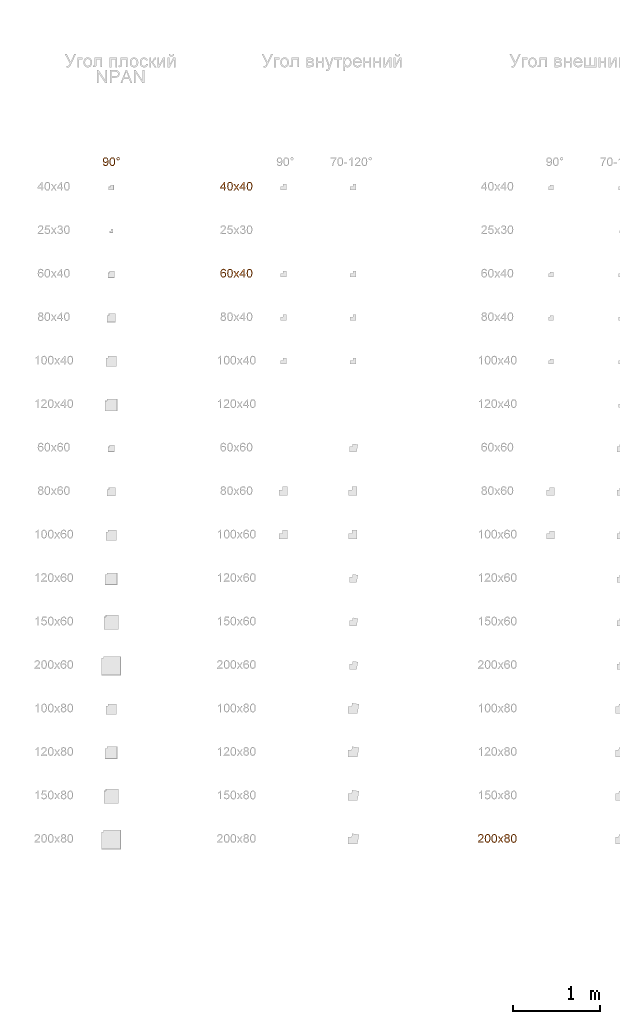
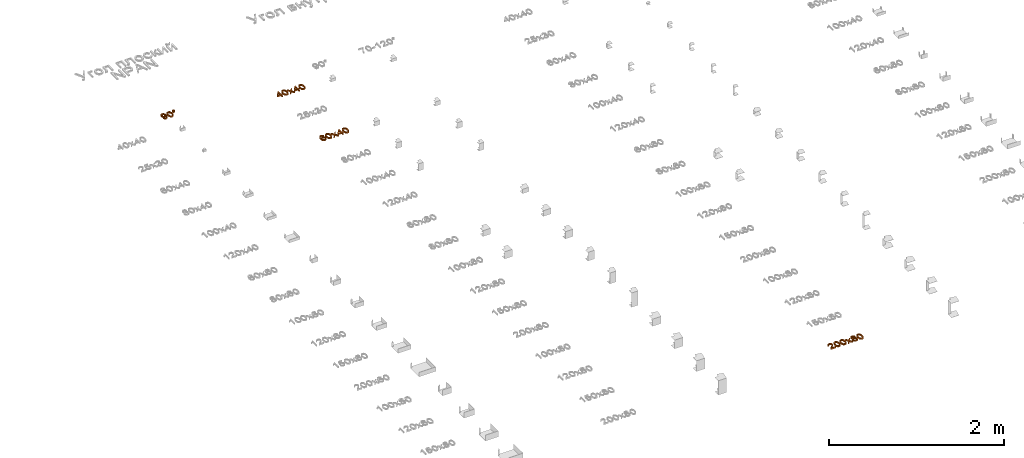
# One storey, part 50 of 71: 4 proxies.
"""IFC2X3 building model written with IfcOpenShell, lengths in millimetres."""

from ifc_helpers import new_model, entity, si_unit, converted_unit, derived_unit, direction, frame, origin, place, context, subcontext, project, spatial, polyline, outline, extrude, element, save


model = new_model("IFC2X3")

# Units and contexts
model_context = context("Model", 3, precision=0.01, world=origin(), true_north=direction((6.12303176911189e-17, 1.0)))
body_context = subcontext(model_context, "Body", "Model", "MODEL_VIEW")
ifc_project = project(units=[si_unit("LENGTHUNIT", "METRE", prefix="MILLI"), si_unit("AREAUNIT", "SQUARE_METRE"), si_unit("VOLUMEUNIT", "CUBIC_METRE"), converted_unit("PLANEANGLEUNIT", "DEGREE", entity("IfcRatioMeasure", 0.0174532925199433), si_unit("PLANEANGLEUNIT", "RADIAN"), dimensions=[0, 0, 0, 0, 0, 0, 0]), si_unit("MASSUNIT", "GRAM", prefix="KILO"), derived_unit("MASSDENSITYUNIT", [(si_unit("MASSUNIT", "GRAM", prefix="KILO"), 1), (si_unit("LENGTHUNIT", "METRE"), -3)]), si_unit("TIMEUNIT", "SECOND"), si_unit("FREQUENCYUNIT", "HERTZ"), si_unit("THERMODYNAMICTEMPERATUREUNIT", "DEGREE_CELSIUS"), derived_unit("THERMALTRANSMITTANCEUNIT", [(si_unit("MASSUNIT", "GRAM", prefix="KILO"), 1), (si_unit("THERMODYNAMICTEMPERATUREUNIT", "KELVIN"), -1), (si_unit("TIMEUNIT", "SECOND"), -3)]), derived_unit("VOLUMETRICFLOWRATEUNIT", [(si_unit("LENGTHUNIT", "METRE"), 3), (si_unit("TIMEUNIT", "SECOND"), -1)]), si_unit("ELECTRICCURRENTUNIT", "AMPERE"), si_unit("ELECTRICVOLTAGEUNIT", "VOLT"), si_unit("POWERUNIT", "WATT"), si_unit("FORCEUNIT", "NEWTON", prefix="KILO"), si_unit("ILLUMINANCEUNIT", "LUX"), si_unit("LUMINOUSFLUXUNIT", "LUMEN"), si_unit("LUMINOUSINTENSITYUNIT", "CANDELA"), derived_unit("USERDEFINED", [(si_unit("MASSUNIT", "GRAM", prefix="KILO"), -1), (si_unit("LENGTHUNIT", "METRE"), -2), (si_unit("TIMEUNIT", "SECOND"), 3), (si_unit("LUMINOUSFLUXUNIT", "LUMEN"), 1)]), derived_unit("LINEARVELOCITYUNIT", [(si_unit("LENGTHUNIT", "METRE"), 1), (si_unit("TIMEUNIT", "SECOND"), -1)]), si_unit("PRESSUREUNIT", "PASCAL"), derived_unit("USERDEFINED", [(si_unit("LENGTHUNIT", "METRE"), -2), (si_unit("MASSUNIT", "GRAM", prefix="KILO"), 1), (si_unit("TIMEUNIT", "SECOND"), -2)])], contexts=[model_context])

# Site, building, storey
site_placement = place(None, origin())
site = spatial("IfcSite", under=ifc_project, at=site_placement, Name="Default", CompositionType="ELEMENT")
building_placement = place(site_placement, origin())
building = spatial("IfcBuilding", under=site, at=building_placement, Name="Наименование здания", CompositionType="ELEMENT")
storey_placement = place(building_placement, origin())
storey = spatial("IfcBuildingStorey", under=building, at=storey_placement, Name="Этаж 01", CompositionType="ELEMENT", Elevation=0.0)

# Proxies
proxy_1_placement = place(storey_placement, origin())
element("IfcBuildingElementProxy", 1, at=proxy_1_placement, inside=storey, Name="Текст модели:100 мм Arial", ObjectType="Текст модели:100 мм Arial", context=body_context, shape_type="SweptSolid", body=[
    extrude(outline(polyline([(-1.14154897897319, -36.3868737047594), (11.4154897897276, -36.3868737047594), (11.4154897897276, -12.8424260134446), (23.9725285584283, -12.8424260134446), (23.9725285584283, -0.285387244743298), (11.4154897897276, -0.285387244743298), (11.4154897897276, 62.4998065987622), (1.99771071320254, 62.4998065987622), (-46.6608145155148, -0.285387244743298), (-46.6608145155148, -12.8424260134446), (-1.14154897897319, -12.8424260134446), (-1.14154897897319, -36.3868737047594)]), holes=[polyline([(-1.14154897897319, -0.285387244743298), (-31.20977071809, -0.285387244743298), (-1.14154897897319, 38.5139005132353), (-1.14154897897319, -0.285387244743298)])]), frame((15100.8514616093, 3073.05161790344, 0.0)), (0.0, 0.0, 1.0), 20.0),
    extrude(outline(polyline([(-7.02884310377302, -33.3490673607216), (17.5323805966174, -33.3490673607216), (35.198417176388, -27.6137612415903), (43.3439841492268, -18.4876517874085), (47.051694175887, -5.75150665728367), (46.7162020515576, 4.48638208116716), (43.4465778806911, 13.0955287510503), (27.9444305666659, 25.6659118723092), (-0.314338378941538, 32.2325535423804), (-24.0296505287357, 32.3678288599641), (-39.4143020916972, 28.0260881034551), (-49.7293680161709, 18.9002174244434), (-54.4436715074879, 4.63998875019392), (-50.8676582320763, -14.1301059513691), (-35.4058547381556, -26.7333390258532), (-7.02884310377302, -33.3490673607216)]), holes=[polyline([(-5.7742877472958, -20.8548320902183), (-25.0157644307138, -17.3562860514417), (-36.7257089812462, -11.5717922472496), (-41.0962588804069, -4.77599682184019), (-41.9669219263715, 3.21464792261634), (-39.2244253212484, 11.2791292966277), (-32.8654063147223, 17.2229259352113), (-20.9698370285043, 20.2947501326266), (-1.61768958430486, 19.7433141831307), (17.8514140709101, 16.2707701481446), (28.7803640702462, 10.7141596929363), (33.5546988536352, 3.61815959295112), (34.55995686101, -4.47255337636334), (31.9421230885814, -12.1923199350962), (25.8471825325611, -18.175480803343), (14.0250679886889, -21.4027476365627), (-5.7742877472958, -20.8548320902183)])]), frame((15169.7029366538, 3082.48792113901, 0.0), z_axis=(0.0, 0.0, 1.0), x_axis=(0.1018515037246, -0.994799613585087, 0.0)), (0.0, 0.0, 1.0), 20.0),
    extrude(outline(polyline([(-34.5302215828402, -38.4265006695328), (-19.4225343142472, -38.4265006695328), (-0.341721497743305, -12.0616243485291), (2.478707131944, -16.1328517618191), (17.8561745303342, -38.4265006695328), (32.9638617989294, -38.4265006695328), (7.40832586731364, -1.34399555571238), (33.9448804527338, 35.3461020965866), (18.8371931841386, 35.3461020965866), (4.95577923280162, 16.1671874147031), (0.0261604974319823, 9.34910777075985), (-5.66374769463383, 17.6877663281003), (-17.8529044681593, 35.3461020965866), (-32.9605917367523, 35.3461020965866), (-7.69936140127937, -1.34399555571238), (-34.5302215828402, -38.4265006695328)])), frame((15242.5445935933, 3075.09124486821, 0.0)), (0.0, 0.0, 1.0), 20.0),
    extrude(outline(polyline([(-1.14154897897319, -36.3868737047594), (11.4154897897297, -36.3868737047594), (11.4154897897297, -12.8424260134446), (23.9725285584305, -12.8424260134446), (23.9725285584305, -0.285387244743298), (11.4154897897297, -0.285387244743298), (11.4154897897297, 62.4998065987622), (1.99771071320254, 62.4998065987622), (-46.6608145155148, -0.285387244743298), (-46.6608145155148, -12.8424260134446), (-1.14154897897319, -12.8424260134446), (-1.14154897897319, -36.3868737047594)]), holes=[polyline([(-1.14154897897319, -0.285387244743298), (-31.2097707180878, -0.285387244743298), (-1.14154897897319, 38.5139005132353), (-1.14154897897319, -0.285387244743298)])]), frame((15325.3085295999, 3073.05161790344, 0.0)), (0.0, 0.0, 1.0), 20.0),
    extrude(outline(polyline([(-7.02884310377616, -33.3490673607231), (17.5323805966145, -33.3490673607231), (35.1984171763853, -27.6137612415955), (43.343984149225, -18.4876517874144), (47.0516941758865, -5.75150665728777), (46.716202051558, 4.48638208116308), (43.4465778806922, 13.0955287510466), (27.9444305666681, 25.6659118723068), (-0.314338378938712, 32.2325535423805), (-24.0296505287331, 32.367828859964), (-39.4143020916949, 28.0260881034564), (-49.7293680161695, 18.9002174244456), (-54.4436715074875, 4.63998875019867), (-50.8676582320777, -14.1301059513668), (-35.405854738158, -26.7333390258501), (-7.02884310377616, -33.3490673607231)]), holes=[polyline([(-5.77428774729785, -20.85483209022), (-25.0157644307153, -17.3562860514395), (-36.7257089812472, -11.5717922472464), (-41.0962588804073, -4.77599682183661), (-41.9669219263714, 3.21464792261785), (-39.2244253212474, 11.2791292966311), (-32.8654063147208, 17.2229259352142), (-20.9698370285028, 20.2947501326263), (-1.61768958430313, 19.7433141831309), (17.8514140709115, 16.2707701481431), (28.7803640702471, 10.7141596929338), (33.5546988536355, 3.61815959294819), (34.5599568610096, -4.47255337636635), (31.9421230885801, -12.1923199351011), (25.8471825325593, -18.1754808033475), (14.0250679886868, -21.4027476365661), (-5.77428774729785, -20.85483209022)])]), frame((15394.1600046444, 3082.48792113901, 0.0), z_axis=(0.0, 0.0, 1.0), x_axis=(0.101851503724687, -0.994799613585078, 0.0)), (0.0, 0.0, 1.0), 20.0),
])
proxy_2_placement = place(storey_placement, origin())
element("IfcBuildingElementProxy", 2, at=proxy_2_placement, inside=storey, Name="Текст модели:100 мм Arial", ObjectType="Текст модели:100 мм Arial", context=body_context, shape_type="SweptSolid", body=[
    extrude(outline(polyline([(6.79275401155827, -32.5027761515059), (18.3659045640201, -32.5027761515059), (28.1525204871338, -28.8011371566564), (35.6312934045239, -21.7178704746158), (40.2809149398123, -11.5729874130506), (41.4130789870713, 3.2366707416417), (36.1391243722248, 16.3729018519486), (21.8599739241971, 28.8803269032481), (-1.50836821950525, 38.2054593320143), (-23.6059131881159, 41.7609274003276), (-39.9814227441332, 38.5965283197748), (-51.1650797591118, 29.9216784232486), (-57.6870671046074, 16.945794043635), (-57.9805556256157, -0.0494879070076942), (-49.2081886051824, -14.3141019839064), (-33.6167855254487, -22.9350568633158), (-20.6265742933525, -24.2502330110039), (-8.97800352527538, -20.6254922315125), (0.0919027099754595, -13.0350962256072), (5.34612034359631, -2.45330669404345), (5.85483161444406, 11.6447254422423), (-0.843339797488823, 24.9910631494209), (19.7707676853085, 15.5765036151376), (28.4840991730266, 4.26766164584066), (28.389351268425, -7.46374532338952), (19.9956250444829, -18.1936336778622), (8.63303585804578, -19.982539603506), (6.79275401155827, -32.5027761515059)]), holes=[polyline([(-18.7586717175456, 29.9549594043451), (-11.6328110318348, 26.3613362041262), (-6.94154076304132, 20.2038317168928), (-5.85783236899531, 4.13761066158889), (-9.48331864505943, -3.952864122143), (-15.1077394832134, -9.26901644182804), (-22.3091633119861, -11.5969098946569), (-30.6656585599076, -10.7226080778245), (-38.6094491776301, -7.06141592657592), (-43.8637090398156, -1.22509865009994), (-46.1835287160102, 6.17768396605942), (-45.3239987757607, 14.5382721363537), (-39.6901171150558, 24.7221971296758), (-30.0168134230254, 30.0585493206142), (-18.7586717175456, 29.9549594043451)])]), frame((15093.7454554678, 2095.21248246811, 0.0), z_axis=(0.0, 0.0, 1.0), x_axis=(-0.267015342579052, 0.963692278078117, 0.0)), (0.0, 0.0, 1.0), 20.0),
    extrude(outline(polyline([(-7.02884310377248, -33.3490673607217), (17.532380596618, -33.3490673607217), (35.1984171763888, -27.6137612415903), (43.3439841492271, -18.4876517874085), (47.0516941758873, -5.75150665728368), (46.7162020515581, 4.48638208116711), (43.4465778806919, 13.0955287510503), (27.9444305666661, 25.6659118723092), (-0.314338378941, 32.2325535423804), (-24.0296505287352, 32.367828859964), (-39.4143020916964, 28.026088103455), (-49.7293680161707, 18.9002174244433), (-54.4436715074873, 4.63998875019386), (-50.867658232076, -14.1301059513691), (-35.4058547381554, -26.7333390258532), (-7.02884310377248, -33.3490673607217)]), holes=[polyline([(-5.77428774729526, -20.8548320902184), (-25.0157644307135, -17.3562860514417), (-36.7257089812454, -11.5717922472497), (-41.0962588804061, -4.77599682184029), (-41.966921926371, 3.21464792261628), (-39.2244253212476, 11.2791292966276), (-32.865406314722, 17.2229259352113), (-20.9698370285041, 20.2947501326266), (-1.61768958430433, 19.7433141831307), (17.8514140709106, 16.2707701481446), (28.7803640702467, 10.7141596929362), (33.554698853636, 3.61815959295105), (34.5599568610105, -4.47255337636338), (31.9421230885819, -12.1923199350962), (25.8471825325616, -18.1754808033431), (14.0250679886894, -21.4027476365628), (-5.77428774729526, -20.8548320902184)])]), frame((15169.7029366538, 2082.48792113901, 0.0), z_axis=(0.0, 0.0, 1.0), x_axis=(0.1018515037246, -0.994799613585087, 0.0)), (0.0, 0.0, 1.0), 20.0),
    extrude(outline(polyline([(-34.5302215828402, -38.4265006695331), (-19.4225343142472, -38.4265006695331), (-0.341721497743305, -12.0616243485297), (2.478707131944, -16.1328517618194), (17.8561745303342, -38.4265006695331), (32.9638617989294, -38.4265006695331), (7.40832586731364, -1.34399555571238), (33.9448804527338, 35.3461020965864), (18.8371931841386, 35.3461020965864), (4.95577923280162, 16.1671874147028), (0.0261604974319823, 9.34910777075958), (-5.66374769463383, 17.6877663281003), (-17.8529044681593, 35.3461020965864), (-32.9605917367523, 35.3461020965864), (-7.69936140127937, -1.34399555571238), (-34.5302215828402, -38.4265006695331)])), frame((15242.5445935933, 2075.09124486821, 0.0)), (0.0, 0.0, 1.0), 20.0),
    extrude(outline(polyline([(-1.14154897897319, -36.3868737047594), (11.4154897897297, -36.3868737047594), (11.4154897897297, -12.8424260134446), (23.9725285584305, -12.8424260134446), (23.9725285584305, -0.285387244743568), (11.4154897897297, -0.285387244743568), (11.4154897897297, 62.4998065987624), (1.99771071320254, 62.4998065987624), (-46.6608145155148, -0.285387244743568), (-46.6608145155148, -12.8424260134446), (-1.14154897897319, -12.8424260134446), (-1.14154897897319, -36.3868737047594)]), holes=[polyline([(-1.14154897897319, -0.285387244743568), (-31.2097707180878, -0.285387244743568), (-1.14154897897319, 38.5139005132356), (-1.14154897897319, -0.285387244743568)])]), frame((15325.3085295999, 2073.05161790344, 0.0)), (0.0, 0.0, 1.0), 20.0),
    extrude(outline(polyline([(-7.02884310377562, -33.3490673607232), (17.5323805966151, -33.3490673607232), (35.1984171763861, -27.6137612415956), (43.3439841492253, -18.4876517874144), (47.0516941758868, -5.75150665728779), (46.7162020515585, 4.48638208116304), (43.446577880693, 13.0955287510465), (27.9444305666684, 25.6659118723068), (-0.314338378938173, 32.2325535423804), (-24.0296505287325, 32.367828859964), (-39.4143020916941, 28.0260881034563), (-49.7293680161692, 18.9002174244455), (-54.4436715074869, 4.63998875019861), (-50.8676582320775, -14.1301059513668), (-35.4058547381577, -26.7333390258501), (-7.02884310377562, -33.3490673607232)]), holes=[polyline([(-5.77428774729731, -20.85483209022), (-25.015764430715, -17.3562860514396), (-36.7257089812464, -11.5717922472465), (-41.0962588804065, -4.7759968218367), (-41.9669219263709, 3.21464792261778), (-39.2244253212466, 11.279129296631), (-32.8654063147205, 17.2229259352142), (-20.9698370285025, 20.2947501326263), (-1.61768958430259, 19.7433141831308), (17.851414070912, 16.270770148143), (28.7803640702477, 10.7141596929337), (33.5546988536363, 3.61815959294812), (34.5599568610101, -4.4725533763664), (31.9421230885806, -12.1923199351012), (25.8471825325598, -18.1754808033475), (14.0250679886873, -21.4027476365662), (-5.77428774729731, -20.85483209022)])]), frame((15394.1600046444, 2082.48792113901, 0.0), z_axis=(0.0, 0.0, 1.0), x_axis=(0.101851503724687, -0.994799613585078, 0.0)), (0.0, 0.0, 1.0), 20.0),
])
proxy_3_placement = place(storey_placement, origin())
element("IfcBuildingElementProxy", 3, at=proxy_3_placement, inside=storey, Name="Текст модели:100 мм Arial", ObjectType="Текст модели:100 мм Arial", context=body_context, shape_type="SweptSolid", body=[
    extrude(outline(polyline([(5.58296908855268, -31.7859506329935), (17.2387167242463, -31.7859506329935), (26.9216142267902, -28.1739915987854), (34.2072820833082, -21.2554963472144), (38.6713407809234, -11.3358876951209), (39.9245387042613, -0.903731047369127), (37.9450282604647, 8.926618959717), (32.7793953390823, 17.8190246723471), (24.4742258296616, 25.4373484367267), (-3.90517077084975, 37.3659164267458), (-32.1440557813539, 40.5619140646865), (-49.776907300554, 32.5319597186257), (-59.468326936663, 16.6032994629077), (-60.4499889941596, 4.02951589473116), (-56.4016296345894, -7.53444362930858), (-47.8362588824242, -16.8026666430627), (-35.266886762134, -22.4892406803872), (-21.9841856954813, -23.8222776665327), (-10.3310965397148, -20.2832716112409), (-1.40106329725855, -12.8047998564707), (3.71247002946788, -2.31943974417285), (3.73902096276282, 11.9281903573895), (-2.8599761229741, 24.0883984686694), (-0.471643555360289, 23.5260231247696), (13.133413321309, 18.0099957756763), (22.6158894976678, 11.2224941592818), (27.0079821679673, 2.9145290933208), (26.6924060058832, -7.52395807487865), (20.3410079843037, -16.894547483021), (7.30988926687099, -19.2495752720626), (5.58296908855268, -31.7859506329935)]), holes=[polyline([(-21.7672208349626, 29.1433710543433), (-13.9803799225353, 25.5922442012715), (-8.91107638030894, 19.8291378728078), (-7.47464573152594, 4.45415101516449), (-10.9717321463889, -3.43916536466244), (-16.5473789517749, -8.73312215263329), (-23.5758136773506, -11.1761402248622), (-31.4312638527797, -10.5166404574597), (-39.4119601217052, -6.85973803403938), (-44.9206699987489, -0.817312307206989), (-47.529759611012, 6.83624740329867), (-46.8115950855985, 15.3265517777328), (-43.3781823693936, 22.7799280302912), (-37.7148363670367, 27.7965691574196), (-30.338776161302, 30.0324064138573), (-21.7672208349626, 29.1433710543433)])]), frame((13736.4732792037, 3356.70859072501, 0.0), z_axis=(0.0, 0.0, 1.0), x_axis=(0.258284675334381, -0.966068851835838, 0.0)), (0.0, 0.0, 1.0), 20.0),
    extrude(outline(polyline([(-7.02884310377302, -33.3490673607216), (17.5323805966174, -33.3490673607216), (35.198417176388, -27.6137612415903), (43.3439841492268, -18.4876517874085), (47.051694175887, -5.75150665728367), (46.7162020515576, 4.48638208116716), (43.4465778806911, 13.0955287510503), (27.9444305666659, 25.6659118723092), (-0.314338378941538, 32.2325535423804), (-24.0296505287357, 32.3678288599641), (-39.4143020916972, 28.0260881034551), (-49.7293680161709, 18.9002174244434), (-54.4436715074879, 4.63998875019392), (-50.8676582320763, -14.1301059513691), (-35.4058547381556, -26.7333390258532), (-7.02884310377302, -33.3490673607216)]), holes=[polyline([(-5.7742877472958, -20.8548320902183), (-25.0157644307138, -17.3562860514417), (-36.7257089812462, -11.5717922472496), (-41.0962588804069, -4.77599682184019), (-41.9669219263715, 3.21464792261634), (-39.2244253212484, 11.2791292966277), (-32.8654063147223, 17.2229259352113), (-20.9698370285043, 20.2947501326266), (-1.61768958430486, 19.7433141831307), (17.8514140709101, 16.2707701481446), (28.7803640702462, 10.7141596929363), (33.5546988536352, 3.61815959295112), (34.55995686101, -4.47255337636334), (31.9421230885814, -12.1923199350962), (25.8471825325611, -18.175480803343), (14.0250679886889, -21.4027476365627), (-5.7742877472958, -20.8548320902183)])]), frame((13816.4416279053, 3363.8143336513, 0.0), z_axis=(0.0, 0.0, 1.0), x_axis=(0.1018515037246, -0.994799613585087, 0.0)), (0.0, 0.0, 1.0), 20.0),
    extrude(outline(polyline([(-7.21350075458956, -17.3978764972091), (7.25185236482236, -17.3978764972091), (17.4056913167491, -7.22668745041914), (17.3916262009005, 7.2046723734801), (7.18917787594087, 17.4112581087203), (-7.21678573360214, 17.4264979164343), (-17.4034432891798, 7.17599118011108), (-17.4046179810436, -7.19597913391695), (-7.21350075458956, -17.3978764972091)]), holes=[polyline([(-4.19028050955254, -10.1553501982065), (-10.1411551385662, -4.20284347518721), (-10.1327867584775, 4.22075752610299), (-4.20567624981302, 10.1423272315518), (4.21128202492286, 10.1499783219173), (10.162156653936, 4.19747159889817), (10.1725417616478, -4.18080500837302), (4.22667776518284, -10.1476991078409), (-4.19028050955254, -10.1553501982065)])]), frame((13881.4352378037, 3401.19226844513, 0.0), z_axis=(0.0, 0.0, 1.0), x_axis=(0.38232683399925, -0.924027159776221, 0.0)), (0.0, 0.0, 1.0), 20.0),
])
proxy_4_placement = place(storey_placement, origin())
element("IfcBuildingElementProxy", 4, at=proxy_4_placement, inside=storey, Name="Текст модели:100 мм Arial", ObjectType="Текст модели:100 мм Arial", context=body_context, shape_type="SweptSolid", body=[
    extrude(outline(polyline([(-32.385878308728, -45.1669477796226), (-32.385878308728, -57.7239865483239), (33.5385752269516, -57.7239865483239), (32.1896745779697, -49.0664969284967), (24.5622545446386, -35.7369059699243), (8.84143061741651, -21.1810416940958), (-12.8390816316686, -0.260818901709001), (-18.2592096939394, 13.9639515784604), (-13.1456499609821, 25.4786580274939), (0.208466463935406, 30.1752848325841), (14.1266686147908, 25.5890226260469), (19.4119066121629, 12.9093565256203), (31.9689453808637, 14.4789863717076), (28.9247218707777, 26.6252235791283), (22.3426998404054, 35.4973110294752), (12.5662358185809, 40.9235704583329), (-0.0613136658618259, 42.7323236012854), (-12.7808336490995, 40.7212353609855), (-22.5389035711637, 34.6879706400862), (-28.746912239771, 25.6748617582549), (-30.8162484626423, 14.7242410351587), (-28.5844310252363, 2.81712712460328), (-21.1654774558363, -9.49465698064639), (-3.17604789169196, -26.6992716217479), (11.2694517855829, -38.7780637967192), (16.9348345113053, -45.1669477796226), (-32.385878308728, -45.1669477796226)])), frame((18052.4125507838, -4405.61126925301, 0.0), z_axis=(0.0, 0.0, -1.0), x_axis=(-1.0, 0.0, 0.0)), (0.0, 0.0, -1.0), 20.0),
    extrude(outline(polyline([(-7.02884310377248, -33.3490673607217), (17.532380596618, -33.3490673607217), (35.1984171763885, -27.6137612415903), (43.3439841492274, -18.4876517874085), (47.0516941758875, -5.75150665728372), (46.7162020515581, 4.4863820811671), (43.4465778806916, 13.0955287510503), (27.9444305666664, 25.6659118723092), (-0.314338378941, 32.2325535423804), (-24.0296505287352, 32.367828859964), (-39.4143020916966, 28.026088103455), (-49.7293680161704, 18.9002174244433), (-54.4436715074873, 4.63998875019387), (-50.8676582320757, -14.1301059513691), (-35.4058547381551, -26.7333390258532), (-7.02884310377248, -33.3490673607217)]), holes=[polyline([(-5.77428774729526, -20.8548320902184), (-25.0157644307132, -17.3562860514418), (-36.7257089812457, -11.5717922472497), (-41.0962588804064, -4.77599682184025), (-41.966921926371, 3.21464792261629), (-39.2244253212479, 11.2791292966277), (-32.8654063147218, 17.2229259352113), (-20.9698370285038, 20.2947501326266), (-1.61768958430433, 19.7433141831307), (17.8514140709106, 16.2707701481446), (28.7803640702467, 10.7141596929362), (33.5546988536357, 3.61815959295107), (34.5599568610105, -4.47255337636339), (31.9421230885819, -12.1923199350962), (25.8471825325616, -18.1754808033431), (14.0250679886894, -21.4027476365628), (-5.77428774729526, -20.8548320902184)])]), frame((18131.2470054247, -4417.51207886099, 0.0), z_axis=(0.0, 0.0, 1.0), x_axis=(0.1018515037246, -0.994799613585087, 0.0)), (0.0, 0.0, 1.0), 20.0),
    extrude(outline(polyline([(-7.02884310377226, -33.3490673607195), (17.5323805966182, -33.3490673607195), (35.1984171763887, -27.6137612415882), (43.3439841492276, -18.4876517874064), (47.0516941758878, -5.75150665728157), (46.7162020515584, 4.48638208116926), (43.4465778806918, 13.0955287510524), (27.9444305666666, 25.6659118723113), (-0.314338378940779, 32.2325535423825), (-24.0296505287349, 32.3678288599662), (-39.4143020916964, 28.0260881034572), (-49.7293680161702, 18.9002174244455), (-54.4436715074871, 4.63998875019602), (-50.8676582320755, -14.130105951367), (-35.4058547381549, -26.7333390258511), (-7.02884310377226, -33.3490673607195)]), holes=[polyline([(-5.77428774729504, -20.8548320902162), (-25.015764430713, -17.3562860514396), (-36.7257089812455, -11.5717922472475), (-41.0962588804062, -4.77599682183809), (-41.9669219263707, 3.21464792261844), (-39.2244253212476, 11.2791292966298), (-32.8654063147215, 17.2229259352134), (-20.9698370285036, 20.2947501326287), (-1.6176895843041, 19.7433141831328), (17.8514140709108, 16.2707701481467), (28.780364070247, 10.7141596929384), (33.5546988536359, 3.61815959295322), (34.5599568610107, -4.47255337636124), (31.9421230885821, -12.1923199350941), (25.8471825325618, -18.175480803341), (14.0250679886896, -21.4027476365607), (-5.77428774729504, -20.8548320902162)])]), frame((18208.158867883, -4417.51207886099, 0.0), z_axis=(0.0, 0.0, 1.0), x_axis=(0.1018515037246, -0.994799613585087, 0.0)), (0.0, 0.0, 1.0), 20.0),
    extrude(outline(polyline([(-34.530221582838, -38.4265006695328), (-19.422534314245, -38.4265006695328), (-0.341721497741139, -12.0616243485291), (2.47870713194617, -16.1328517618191), (17.8561745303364, -38.4265006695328), (32.9638617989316, -38.4265006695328), (7.40832586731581, -1.34399555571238), (33.944880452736, 35.3461020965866), (18.8371931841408, 35.3461020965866), (4.95577923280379, 16.1671874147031), (0.0261604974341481, 9.34910777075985), (-5.66374769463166, 17.6877663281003), (-17.8529044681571, 35.3461020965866), (-32.9605917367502, 35.3461020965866), (-7.6993614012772, -1.34399555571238), (-34.530221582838, -38.4265006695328)])), frame((18281.0005248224, -4424.9087551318, 0.0)), (0.0, 0.0, 1.0), 20.0),
    extrude(outline(polyline([(10.1224324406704, -11.2212127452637), (26.4477736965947, -11.2212127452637), (39.686138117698, -0.0909413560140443), (44.6322314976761, 11.3078156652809), (44.5856416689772, 23.4168603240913), (39.6073830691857, 34.8346290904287), (29.7584701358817, 44.1595584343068), (17.4236057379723, 49.795656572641), (4.98749274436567, 50.1469317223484), (-6.20047708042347, 45.7236060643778), (-14.7909119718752, 37.0359017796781), (-20.0781666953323, 21.0056847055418), (-14.5070621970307, 5.37692494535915), (-28.0684052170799, 5.15563707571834), (-37.7221714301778, -2.60845010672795), (-41.5236361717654, -11.935700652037), (-41.0036870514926, -22.2232653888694), (-36.1916154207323, -32.1870777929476), (-27.1167126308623, -40.5430713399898), (-16.0503295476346, -45.812309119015), (-5.18246445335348, -46.5706787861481), (4.3845330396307, -43.2361071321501), (11.5483133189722, -36.2265209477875), (15.2516244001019, -24.0826582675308), (10.1224324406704, -11.2212127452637)]), holes=[polyline([(29.0262968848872, 6.56051660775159), (17.1806533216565, -1.51571690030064), (9.68494123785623, -1.27757268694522), (1.95268767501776, 2.32885586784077), (-4.46267094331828, 8.27886886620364), (-7.64161156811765, 15.3010558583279), (-4.59707955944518, 29.6929468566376), (7.31333657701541, 37.799466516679), (14.8367372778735, 37.487209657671), (22.6595729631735, 33.8012523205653), (30.3730358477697, 25.5864099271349), (32.5711030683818, 15.5727469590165), (29.0262968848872, 6.56051660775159)]), polyline([(1.34077476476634, -28.903904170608), (-7.53771017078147, -33.9815875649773), (-20.2415350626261, -30.0339976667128), (-28.5905650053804, -19.6902819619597), (-26.9800933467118, -9.13787919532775), (-18.1108932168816, -3.87648928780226), (-5.45128168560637, -7.82385811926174), (3.1592702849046, -18.2403048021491), (1.34077476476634, -28.903904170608)])]), frame((18354.7737407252, -4411.65422231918, 0.0), z_axis=(0.0, 0.0, 1.0), x_axis=(-0.829266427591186, -0.558853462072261, 0.0)), (0.0, 0.0, 1.0), 20.0),
    extrude(outline(polyline([(-7.0288431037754, -33.349067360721), (17.5323805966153, -33.349067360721), (35.1984171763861, -27.6137612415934), (43.3439841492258, -18.4876517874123), (47.0516941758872, -5.75150665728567), (46.7162020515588, 4.48638208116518), (43.446577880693, 13.0955287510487), (27.9444305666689, 25.6659118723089), (-0.314338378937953, 32.2325535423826), (-24.0296505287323, 32.3678288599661), (-39.4143020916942, 28.0260881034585), (-49.7293680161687, 18.9002174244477), (-54.4436715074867, 4.63998875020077), (-50.867658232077, -14.1301059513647), (-35.4058547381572, -26.733339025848), (-7.0288431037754, -33.349067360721)]), holes=[polyline([(-5.77428774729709, -20.8548320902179), (-25.0157644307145, -17.3562860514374), (-36.7257089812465, -11.5717922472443), (-41.0962588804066, -4.77599682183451), (-41.9669219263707, 3.21464792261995), (-39.2244253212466, 11.2791292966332), (-32.86540631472, 17.2229259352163), (-20.969837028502, 20.2947501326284), (-1.61768958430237, 19.743314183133), (17.8514140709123, 16.2707701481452), (28.7803640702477, 10.7141596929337), (33.5546988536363, 3.61815959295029), (34.5599568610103, -4.47255337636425), (31.9421230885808, -12.192319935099), (25.84718253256, -18.1754808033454), (14.0250679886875, -21.402747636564), (-5.77428774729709, -20.8548320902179)])]), frame((18432.6159358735, -4417.51207886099, 0.0), z_axis=(0.0, 0.0, 1.0), x_axis=(0.101851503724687, -0.994799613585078, 0.0)), (0.0, 0.0, 1.0), 20.0),
])

save(model, "model.ifc")
